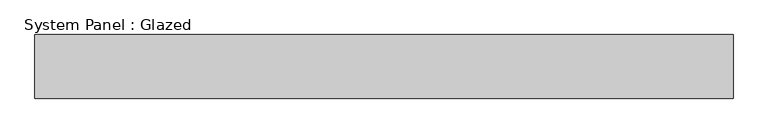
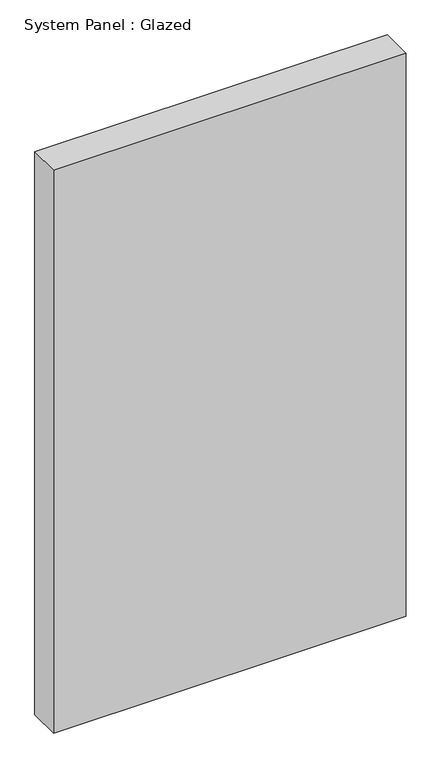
"""IFC4 building model written with IfcOpenShell, lengths in millimetres: plate geometry, System Panel : Glazed."""

from ifc_helpers import new_model, si_unit, origin, origin_with_axes, place, context, project, spatial, polyline, outline, extrude, source, transform, mapped, element, save


def system_panel_glazed_b8472da5(model_context):
    return source(origin(), model_context, "Body", "SweptSolid", [
        extrude(outline(polyline([(545.0, 50.0), (-545.0, 50.0), (-545.0, 150.0), (545.0, 150.0), (545.0, 50.0)])), origin_with_axes(), (0.0, 0.0, 1.0), 1838.3368511),
    ])


if __name__ == "__main__":
    model = new_model("IFC4")
    model_context = context("Model", 3, world=origin())
    ifc_project = project(units=[si_unit("LENGTHUNIT", "METRE", prefix="MILLI")], contexts=[model_context])
    site = spatial("IfcSite", under=ifc_project)
    building = spatial("IfcBuilding", under=site)
    placement = place(None, origin())
    system_panel_glazed_shape = system_panel_glazed_b8472da5(model_context)
    element("IfcPlate", 1, ObjectType="System Panel : Glazed", at=placement, inside=building, context=model_context, shape_type="MappedRepresentation", body=[
        mapped(system_panel_glazed_shape, transform((0.0, 0.0, 0.0), x_axis=(1.0, 0.0, 0.0), y_axis=(0.0, 1.0, 0.0), z_axis=(0.0, 0.0, 1.0))),
    ])
    save(model, "model.ifc")
